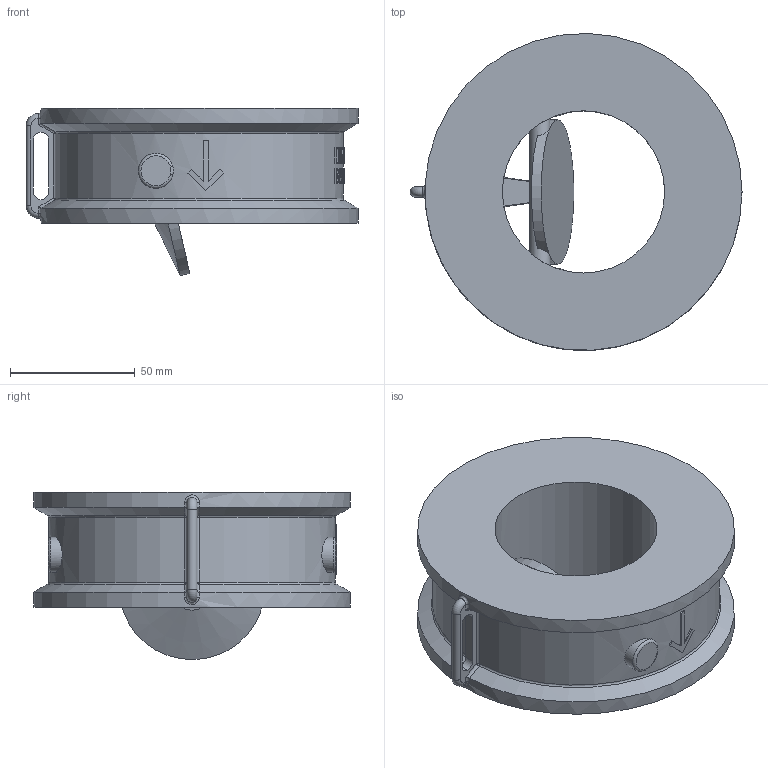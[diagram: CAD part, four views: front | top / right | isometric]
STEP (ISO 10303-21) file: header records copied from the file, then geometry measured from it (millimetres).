
FILE_DESCRIPTION( ( 'Unknown' ), '1' );
FILE_NAME( 'C:/Documents and Settings/Klaus/My Documents/Rootsi BPS 3D, Klaus/BPS 6530 tilting disc check valve/STEP/BPS6530065 tilting disc check valve DN65.stp', 'Unknown', ( 'Unknown' ), ( 'Unknown' ), 'PSStep 10.1', 'Unknown', ' ' );
FILE_SCHEMA( ( 'AUTOMOTIVE_DESIGN { 1 0 10303 214 1 1 1 1 }' ) );
Length unit declared in the file: millimetre
Products named in the file (1): 1
Bounding box: 133 x 126.97 x 67 mm (x, y, z)
Volume: 380173.6 mm3; surface area: 55376.6 mm2
Topology: 1 solids, 1 shells, 234 faces, 573 edges, 374 vertices
Faces by surface type: bspline 86, plane 79, cylinder 55, torus 6, cone 4, sphere 4
Full cylindrical faces by diameter (mm): 8 x1, 65 x1, 127 x2
Entity records: 17885 total; most frequent: CARTESIAN_POINT 11660, ORIENTED_EDGE 1116, EDGE_CURVE 558, B_SPLINE_CURVE_WITH_KNOTS 461, DIRECTION 456, VERTEX_POINT 369, EDGE_LOOP 285, FACE_OUTER_BOUND 242
